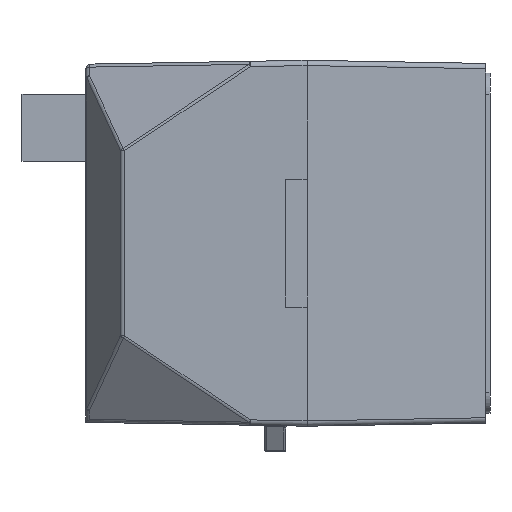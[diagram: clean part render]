
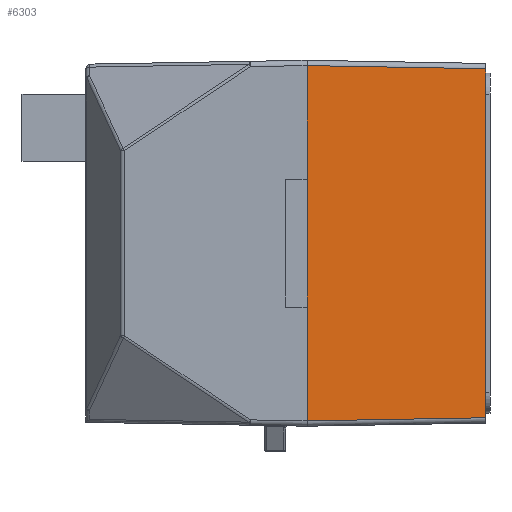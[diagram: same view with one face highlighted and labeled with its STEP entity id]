
A CAD part, left-side view. The second image highlights one B-rep face of the part: STEP entity #6303.
In plain terms, the highlighted planar face has unit normal (-0.999, -0.037, 0).
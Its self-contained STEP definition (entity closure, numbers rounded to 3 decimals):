
#2507=DIRECTION('',(0.,0.,-1.));
#2508=VECTOR('',#2507,80.);
#2509=CARTESIAN_POINT('',(-37.923,1.,40.));
#2510=LINE('',#2509,#2508);
#2867=DIRECTION('',(0.,0.,1.));
#2868=VECTOR('',#2867,1.018);
#2869=CARTESIAN_POINT('',(-37.923,1.,-41.018));
#2870=LINE('',#2869,#2868);
#2913=DIRECTION('',(0.,0.,1.));
#2914=VECTOR('',#2913,1.018);
#2915=CARTESIAN_POINT('',(-37.923,1.,40.));
#2916=LINE('',#2915,#2914);
#2924=CARTESIAN_POINT('',(-37.923,1.,41.018));
#2936=DIRECTION('',(0.038,-0.999,0.017));
#2937=VECTOR('',#2936,42.036);
#2938=CARTESIAN_POINT('',(-39.5,43.,-41.751));
#2939=LINE('',#2938,#2937);
#2943=DIRECTION('',(0.,0.,1.));
#2944=VECTOR('',#2943,30.);
#2945=CARTESIAN_POINT('',(-39.5,43.,-15.));
#2946=LINE('',#2945,#2944);
#2950=DIRECTION('',(0.038,-0.999,-0.017));
#2951=VECTOR('',#2950,42.036);
#2952=CARTESIAN_POINT('',(-39.5,43.,41.751));
#2953=LINE('',#2952,#2951);
#2971=DIRECTION('',(0.,0.,1.));
#2972=VECTOR('',#2971,26.751);
#2973=CARTESIAN_POINT('',(-39.5,43.,15.));
#2974=LINE('',#2973,#2972);
#2999=DIRECTION('',(0.,0.,1.));
#3000=VECTOR('',#2999,26.751);
#3001=CARTESIAN_POINT('',(-39.5,43.,-41.751));
#3002=LINE('',#3001,#3000);
#4775=CARTESIAN_POINT('',(-37.923,1.,40.));
#4776=CARTESIAN_POINT('',(-37.923,1.,-40.));
#4777=VERTEX_POINT('',#4775);
#4778=VERTEX_POINT('',#4776);
#4783=CARTESIAN_POINT('',(-39.5,43.,-15.));
#4784=VERTEX_POINT('',#4783);
#4785=CARTESIAN_POINT('',(-39.5,43.,15.));
#4786=VERTEX_POINT('',#4785);
#4839=CARTESIAN_POINT('',(-39.5,43.,-41.751));
#4840=CARTESIAN_POINT('',(-37.923,1.,-41.018));
#4841=VERTEX_POINT('',#4839);
#4842=VERTEX_POINT('',#4840);
#4937=CARTESIAN_POINT('',(-39.5,43.,41.751));
#4938=VERTEX_POINT('',#4937);
#4942=VERTEX_POINT('',#2924);
#6284=CARTESIAN_POINT('',(-39.5,43.,-43.));
#6285=DIRECTION('',(-0.999,-0.038,0.));
#6286=DIRECTION('',(0.,0.,1.));
#6287=AXIS2_PLACEMENT_3D('',#6284,#6285,#6286);
#6288=PLANE('',#6287);
#6289=ORIENTED_EDGE('',*,*,#6274,.F.);
#6291=ORIENTED_EDGE('',*,*,#6290,.T.);
#6293=ORIENTED_EDGE('',*,*,#6292,.T.);
#6295=ORIENTED_EDGE('',*,*,#6294,.T.);
#6297=ORIENTED_EDGE('',*,*,#6296,.T.);
#6298=ORIENTED_EDGE('',*,*,#6260,.F.);
#6299=ORIENTED_EDGE('',*,*,#5590,.T.);
#6300=ORIENTED_EDGE('',*,*,#6238,.F.);
#6301=EDGE_LOOP('',(#6289,#6291,#6293,#6295,#6297,#6298,#6299,#6300));
#6302=FACE_OUTER_BOUND('',#6301,.F.);
#5590=EDGE_CURVE('',#4777,#4778,#2510,.T.);
#6238=EDGE_CURVE('',#4842,#4778,#2870,.T.);
#6260=EDGE_CURVE('',#4777,#4942,#2916,.T.);
#6274=EDGE_CURVE('',#4841,#4842,#2939,.T.);
#6290=EDGE_CURVE('',#4841,#4784,#3002,.T.);
#6292=EDGE_CURVE('',#4784,#4786,#2946,.T.);
#6294=EDGE_CURVE('',#4786,#4938,#2974,.T.);
#6296=EDGE_CURVE('',#4938,#4942,#2953,.T.);
#6303=ADVANCED_FACE('',(#6302),#6288,.T.);
